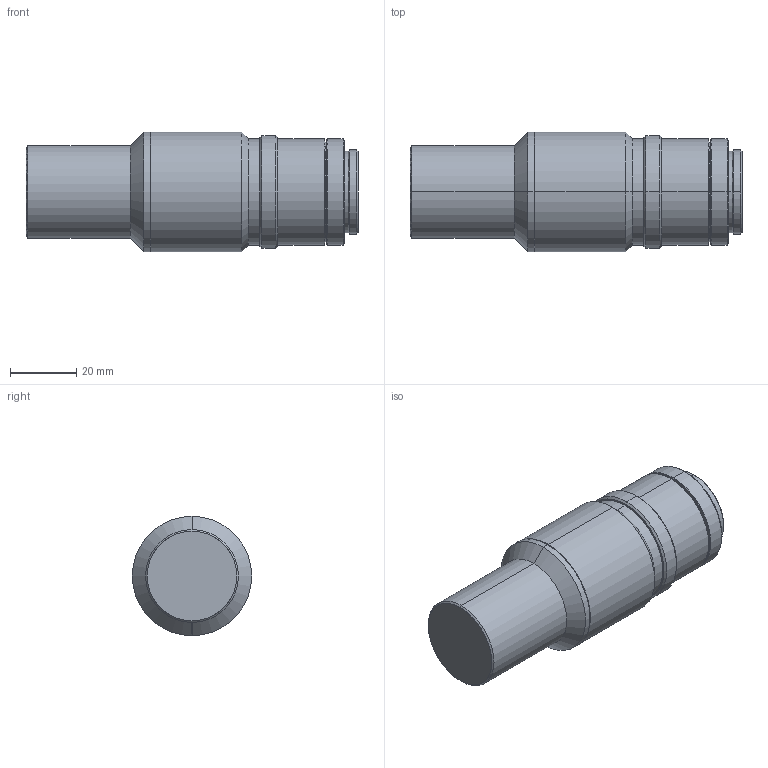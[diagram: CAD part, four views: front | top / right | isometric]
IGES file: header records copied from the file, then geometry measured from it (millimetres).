
Start section: SolidWorks IGES file using analytic representation for surfaces
Bounding box: 100.1 x 36 x 36 mm (x, y, z)
Surface area: 11984.8 mm2 (no closed solid volume)
Topology: 0 solids, 0 shells, 55 faces, 864 edges, 864 vertices
Faces by surface type: revolution 48, bspline 7
